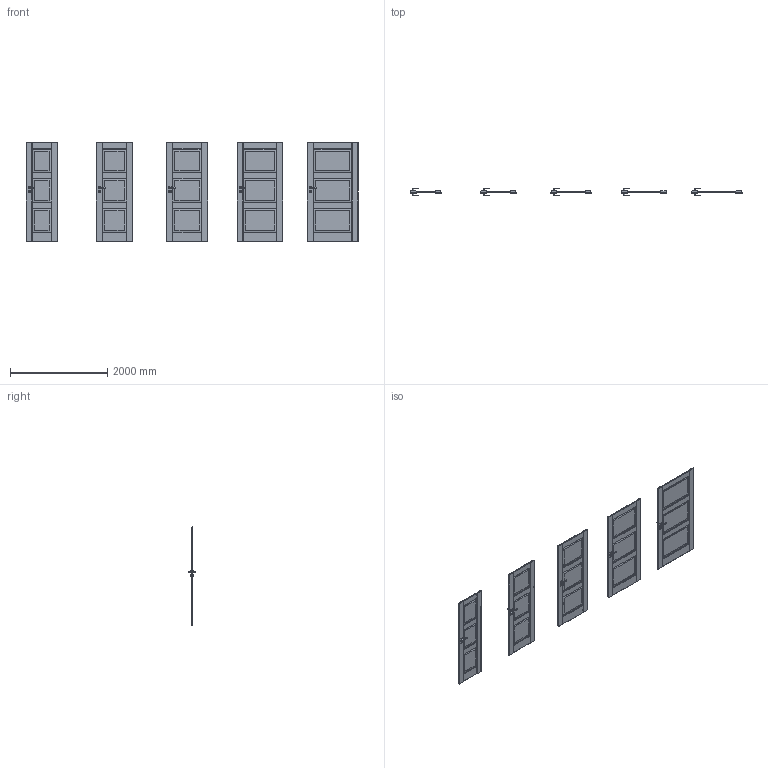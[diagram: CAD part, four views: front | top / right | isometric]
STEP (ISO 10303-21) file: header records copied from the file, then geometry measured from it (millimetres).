
FILE_DESCRIPTION(/* description */ (''),/* implementation_level */ '2;1');
FILE_NAME(/* name */ '049801_A_2-Skrzydło Balance model D_ polska norma _PN__ przylgowe..stp',/* time_stamp */ '2024-07-30T07:42:45+02:00',/* author */ (''),/* organization */ (''),/* preprocessor_version */ 'ST-DEVELOPER v16',/* originating_system */ 'SIEMENS PLM Software NX 11.0',/* authorisation */ '');
FILE_SCHEMA (('AUTOMOTIVE_DESIGN { 1 0 10303 214 3 1 1 1 }'));
Products named in the file (1): bkni1F94B13Af95v
Bounding box: 6844 x 153.13 x 2030.01 mm (x, y, z)
Volume: 393791345 mm3; surface area: 36059298 mm2
Topology: 29 solids, 29 shells, 3036 faces, 7882 edges, 4894 vertices
Faces by surface type: plane 1814, cylinder 922, bspline 160, sphere 140
Entity records: 96903 total; most frequent: CARTESIAN_POINT 23164, ORIENTED_EDGE 15484, DIRECTION 15073, EDGE_CURVE 7742, LINE 5347, VECTOR 5347, VERTEX_POINT 4894, AXIS2_PLACEMENT_3D 4863
